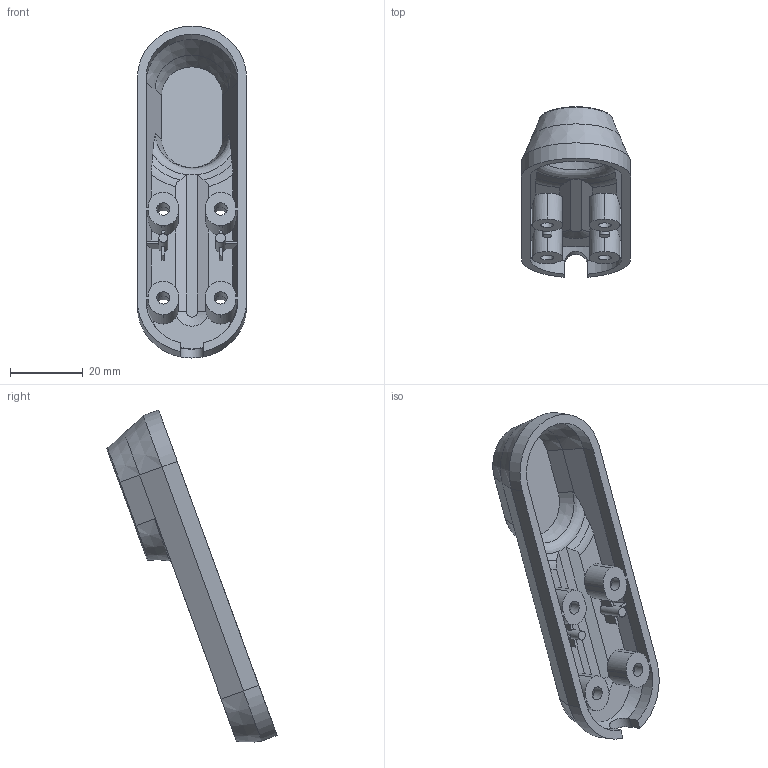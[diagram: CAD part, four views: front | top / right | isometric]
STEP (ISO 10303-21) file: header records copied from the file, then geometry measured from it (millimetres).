
FILE_DESCRIPTION(/* description */ (''),/* implementation_level */ '2;1');
FILE_NAME(/* name */ 'Xiaomi Pro 2 Front Cover V1.0.step',/* time_stamp */ '2024-05-14T09:58:15+02:00',/* author */ (''),/* organization */ (''),/* preprocessor_version */ 'ST-DEVELOPER v20',/* originating_system */ 'Autodesk Translation Framework v12.20.1.177',/* authorisation */ '');
FILE_SCHEMA (('AUTOMOTIVE_DESIGN { 1 0 10303 214 3 1 1 }'));
Length unit declared in the file: millimetre
Products named in the file (1): Roller
Bounding box: 30 x 46.72 x 91.21 mm (x, y, z)
Volume: 11913.2 mm3; surface area: 11251.2 mm2
Topology: 1 solids, 1 shells, 147 faces, 398 edges, 258 vertices
Faces by surface type: plane 89, cylinder 41, cone 9, torus 6, bspline 2
Full cylindrical faces by diameter (mm): 2.5 x1, 2.75 x1, 3.6 x4, 6.2 x4
Entity records: 4826 total; most frequent: CARTESIAN_POINT 1012, ORIENTED_EDGE 796, DIRECTION 790, EDGE_CURVE 398, AXIS2_PLACEMENT_3D 274, VERTEX_POINT 258, LINE 242, VECTOR 242
